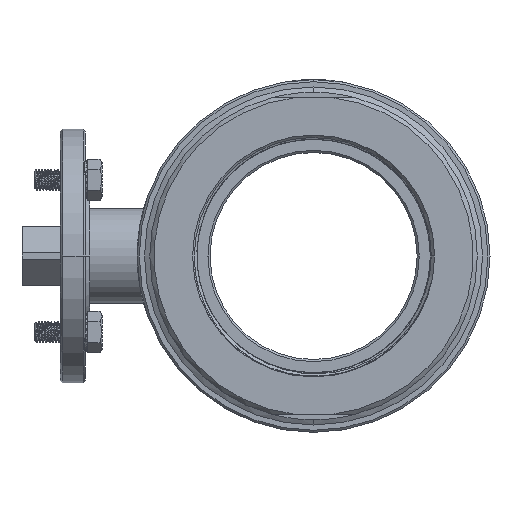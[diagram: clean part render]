
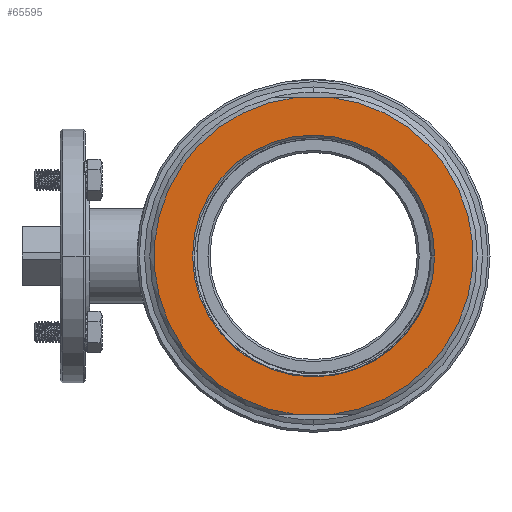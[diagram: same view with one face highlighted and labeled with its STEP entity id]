
A CAD part, left-side view. The second image highlights one B-rep face of the part: STEP entity #65595.
In plain terms, the highlighted planar face has unit normal (-1, 0, 0).
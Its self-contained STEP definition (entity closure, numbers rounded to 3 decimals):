
#63219=DIRECTION('',(0.,-1.,0.));
#63220=VECTOR('',#63219,17.349);
#63221=CARTESIAN_POINT('',(-89.,8.675,75.));
#63222=LINE('',#63221,#63220);
#63223=DIRECTION('',(0.,-1.,0.));
#63224=VECTOR('',#63223,17.349);
#63225=CARTESIAN_POINT('',(-89.,8.675,-75.));
#63226=LINE('',#63225,#63224);
#63252=CARTESIAN_POINT('',(-89.,0.,0.));
#63253=DIRECTION('',(1.,0.,0.));
#63254=DIRECTION('',(0.,1.,0.));
#63255=AXIS2_PLACEMENT_3D('',#63252,#63253,#63254);
#63946=CARTESIAN_POINT('',(-89.,0.,0.));
#63947=DIRECTION('',(1.,0.,0.));
#63948=DIRECTION('',(0.,-1.,0.));
#63949=AXIS2_PLACEMENT_3D('',#63946,#63947,#63948);
#65301=CARTESIAN_POINT('',(-89.,0.,0.));
#65302=DIRECTION('',(-1.,0.,0.));
#65303=DIRECTION('',(0.,-0.115,-0.993));
#65304=AXIS2_PLACEMENT_3D('',#65301,#65302,#65303);
#65362=CARTESIAN_POINT('',(-89.,0.,0.));
#65363=DIRECTION('',(-1.,0.,0.));
#65364=DIRECTION('',(0.,0.115,0.993));
#65365=AXIS2_PLACEMENT_3D('',#65362,#65363,#65364);
#65380=CARTESIAN_POINT('',(-89.,57.25,0.));
#65381=CARTESIAN_POINT('',(-89.,-57.25,0.));
#65382=VERTEX_POINT('',#65380);
#65383=VERTEX_POINT('',#65381);
#65396=CARTESIAN_POINT('',(-89.,8.675,75.));
#65397=CARTESIAN_POINT('',(-89.,-8.675,75.));
#65398=VERTEX_POINT('',#65396);
#65399=VERTEX_POINT('',#65397);
#65400=CARTESIAN_POINT('',(-89.,8.675,-75.));
#65401=CARTESIAN_POINT('',(-89.,-8.675,-75.));
#65402=VERTEX_POINT('',#65400);
#65403=VERTEX_POINT('',#65401);
#65575=CARTESIAN_POINT('',(-89.,0.,0.));
#65576=DIRECTION('',(-1.,0.,0.));
#65577=DIRECTION('',(0.,0.,-1.));
#65578=AXIS2_PLACEMENT_3D('',#65575,#65576,#65577);
#65579=PLANE('',#65578);
#65580=ORIENTED_EDGE('',*,*,#65561,.T.);
#65582=ORIENTED_EDGE('',*,*,#65581,.F.);
#65584=ORIENTED_EDGE('',*,*,#65583,.F.);
#65586=ORIENTED_EDGE('',*,*,#65585,.F.);
#65587=EDGE_LOOP('',(#65580,#65582,#65584,#65586));
#65588=FACE_OUTER_BOUND('',#65587,.F.);
#65590=ORIENTED_EDGE('',*,*,#65589,.F.);
#65592=ORIENTED_EDGE('',*,*,#65591,.F.);
#65593=EDGE_LOOP('',(#65590,#65592));
#65594=FACE_BOUND('',#65593,.F.);
#65595=ADVANCED_FACE('',(#65588,#65594),#65579,.T.);
#63256=CIRCLE('',#63255,57.25);
#63950=CIRCLE('',#63949,57.25);
#65305=CIRCLE('',#65304,75.5);
#65366=CIRCLE('',#65365,75.5);
#65561=EDGE_CURVE('',#65398,#65399,#63222,.T.);
#65581=EDGE_CURVE('',#65403,#65399,#65305,.T.);
#65583=EDGE_CURVE('',#65402,#65403,#63226,.T.);
#65585=EDGE_CURVE('',#65398,#65402,#65366,.T.);
#65589=EDGE_CURVE('',#65382,#65383,#63256,.T.);
#65591=EDGE_CURVE('',#65383,#65382,#63950,.T.);
